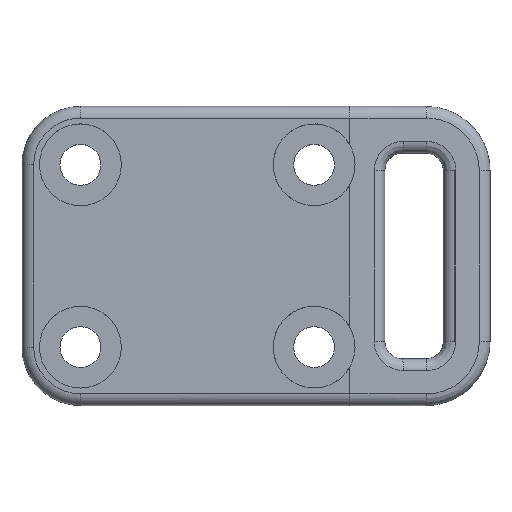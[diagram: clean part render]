
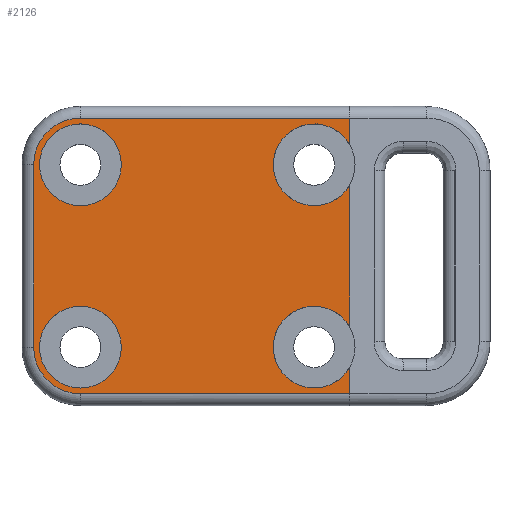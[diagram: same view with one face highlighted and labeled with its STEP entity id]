
A CAD part, top view. The second image highlights one B-rep face of the part: STEP entity #2126.
In plain terms, the highlighted planar face has unit normal (0, 0, 1).
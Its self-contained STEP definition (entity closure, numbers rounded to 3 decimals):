
#36 = DIRECTION ( 'NONE',  ( 0., 0., 1. ) ) ;
#52 = CARTESIAN_POINT ( 'NONE',  ( 3.299, -61.108, 4. ) ) ;
#53 = CARTESIAN_POINT ( 'NONE',  ( 26.348, -66.827, 4. ) ) ;
#108 = DIRECTION ( 'NONE',  ( 0., 0., 1. ) ) ;
#148 = CARTESIAN_POINT ( 'NONE',  ( 26.348, -84.712, 4. ) ) ;
#160 = CARTESIAN_POINT ( 'NONE',  ( 26.348, -91.108, 4. ) ) ;
#163 = VERTEX_POINT ( 'NONE', #704 ) ;
#192 = CARTESIAN_POINT ( 'NONE',  ( 3.299, -65.108, 4. ) ) ;
#203 = EDGE_CURVE ( 'NONE', #849, #163, #530, .T. ) ;
#228 = DIRECTION ( 'NONE',  ( 1., 0., 0. ) ) ;
#250 = EDGE_CURVE ( 'NONE', #882, #2033, #410, .T. ) ;
#255 = CARTESIAN_POINT ( 'NONE',  ( 6.799, -65.108, 4. ) ) ;
#266 = FACE_OUTER_BOUND ( 'NONE', #768, .T. ) ;
#275 = VERTEX_POINT ( 'NONE', #1669 ) ;
#279 = DIRECTION ( 'NONE',  ( 0., 0., 1. ) ) ;
#285 = EDGE_CURVE ( 'NONE', #424, #1435, #1834, .T. ) ;
#303 = CARTESIAN_POINT ( 'NONE',  ( 3.299, -65.108, 4. ) ) ;
#347 = AXIS2_PLACEMENT_3D ( 'NONE', #414, #780, #228 ) ;
#360 = DIRECTION ( 'NONE',  ( 1., 0., 0. ) ) ;
#366 = EDGE_LOOP ( 'NONE', ( #1002, #1067 ) ) ;
#397 = DIRECTION ( 'NONE',  ( 0., 1., 0. ) ) ;
#410 = CIRCLE ( 'NONE', #1590, 3.5 ) ;
#414 = CARTESIAN_POINT ( 'NONE',  ( 23.299, -80.712, 4. ) ) ;
#422 = EDGE_CURVE ( 'NONE', #2122, #849, #1810, .T. ) ;
#424 = VERTEX_POINT ( 'NONE', #2243 ) ;
#454 = ORIENTED_EDGE ( 'NONE', *, *, #285, .T. ) ;
#493 = CARTESIAN_POINT ( 'NONE',  ( -0.701, -80.712, 4. ) ) ;
#519 = CIRCLE ( 'NONE', #1982, 3.5 ) ;
#524 = LINE ( 'NONE', #493, #1609 ) ;
#530 = CIRCLE ( 'NONE', #1842, 4. ) ;
#546 = ORIENTED_EDGE ( 'NONE', *, *, #2303, .F. ) ;
#579 = CARTESIAN_POINT ( 'NONE',  ( 23.299, -80.712, 4. ) ) ;
#622 = AXIS2_PLACEMENT_3D ( 'NONE', #192, #2017, #1683 ) ;
#631 = CARTESIAN_POINT ( 'NONE',  ( 0., 0., 4. ) ) ;
#662 = ORIENTED_EDGE ( 'NONE', *, *, #203, .T. ) ;
#666 = PLANE ( 'NONE',  #1411 ) ;
#677 = EDGE_CURVE ( 'NONE', #799, #275, #2281, .T. ) ;
#704 = CARTESIAN_POINT ( 'NONE',  ( -0.701, -65.108, 4. ) ) ;
#725 = VECTOR ( 'NONE', #1721, 1000. ) ;
#726 = CIRCLE ( 'NONE', #1253, 3.5 ) ;
#768 = EDGE_LOOP ( 'NONE', ( #2323, #911, #1563, #662, #827, #1873, #454, #2073, #1437, #2318, #975, #1617 ) ) ;
#772 = CARTESIAN_POINT ( 'NONE',  ( 26.348, -91.108, 4. ) ) ;
#780 = DIRECTION ( 'NONE',  ( 0., 0., 1. ) ) ;
#799 = VERTEX_POINT ( 'NONE', #1962 ) ;
#827 = ORIENTED_EDGE ( 'NONE', *, *, #1780, .T. ) ;
#849 = VERTEX_POINT ( 'NONE', #2160 ) ;
#855 = VERTEX_POINT ( 'NONE', #1448 ) ;
#857 = CARTESIAN_POINT ( 'NONE',  ( 23.299, -65.108, 4. ) ) ;
#868 = CIRCLE ( 'NONE', #347, 3.5 ) ;
#882 = VERTEX_POINT ( 'NONE', #1622 ) ;
#911 = ORIENTED_EDGE ( 'NONE', *, *, #1625, .T. ) ;
#925 = DIRECTION ( 'NONE',  ( 0., 0., 1. ) ) ;
#934 = VECTOR ( 'NONE', #1182, 1000. ) ;
#952 = EDGE_CURVE ( 'NONE', #1435, #855, #1248, .T. ) ;
#972 = CARTESIAN_POINT ( 'NONE',  ( 26.348, -91.108, 4. ) ) ;
#975 = ORIENTED_EDGE ( 'NONE', *, *, #1187, .T. ) ;
#1002 = ORIENTED_EDGE ( 'NONE', *, *, #2382, .F. ) ;
#1003 = EDGE_CURVE ( 'NONE', #2061, #2201, #1663, .T. ) ;
#1023 = LINE ( 'NONE', #772, #725 ) ;
#1032 = CARTESIAN_POINT ( 'NONE',  ( 19.799, -65.108, 4. ) ) ;
#1046 = DIRECTION ( 'NONE',  ( 1., 0., 0. ) ) ;
#1064 = DIRECTION ( 'NONE',  ( 0., 0., 1. ) ) ;
#1067 = ORIENTED_EDGE ( 'NONE', *, *, #1003, .F. ) ;
#1092 = ORIENTED_EDGE ( 'NONE', *, *, #677, .F. ) ;
#1149 = AXIS2_PLACEMENT_3D ( 'NONE', #1417, #279, #2124 ) ;
#1182 = DIRECTION ( 'NONE',  ( -1., 0., 0. ) ) ;
#1187 = EDGE_CURVE ( 'NONE', #882, #1684, #1023, .T. ) ;
#1194 = CIRCLE ( 'NONE', #1483, 3.5 ) ;
#1228 = CARTESIAN_POINT ( 'NONE',  ( 3.299, -80.712, 4. ) ) ;
#1248 = LINE ( 'NONE', #160, #1886 ) ;
#1253 = AXIS2_PLACEMENT_3D ( 'NONE', #1507, #36, #2252 ) ;
#1297 = CARTESIAN_POINT ( 'NONE',  ( 19.799, -80.712, 4. ) ) ;
#1312 = EDGE_CURVE ( 'NONE', #1313, #424, #2161, .T. ) ;
#1313 = VERTEX_POINT ( 'NONE', #1909 ) ;
#1316 = AXIS2_PLACEMENT_3D ( 'NONE', #1228, #1585, #1594 ) ;
#1341 = CARTESIAN_POINT ( 'NONE',  ( 3.299, -80.712, 4. ) ) ;
#1345 = EDGE_LOOP ( 'NONE', ( #546, #1092 ) ) ;
#1347 = EDGE_CURVE ( 'NONE', #1413, #2230, #1194, .T. ) ;
#1384 = CARTESIAN_POINT ( 'NONE',  ( 26.348, -61.108, 4. ) ) ;
#1411 = AXIS2_PLACEMENT_3D ( 'NONE', #631, #108, #1749 ) ;
#1413 = VERTEX_POINT ( 'NONE', #1635 ) ;
#1417 = CARTESIAN_POINT ( 'NONE',  ( 3.299, -80.712, 4. ) ) ;
#1435 = VERTEX_POINT ( 'NONE', #148 ) ;
#1437 = ORIENTED_EDGE ( 'NONE', *, *, #2057, .F. ) ;
#1448 = CARTESIAN_POINT ( 'NONE',  ( 26.348, -82.43, 4. ) ) ;
#1483 = AXIS2_PLACEMENT_3D ( 'NONE', #857, #2145, #1046 ) ;
#1507 = CARTESIAN_POINT ( 'NONE',  ( 23.299, -65.108, 4. ) ) ;
#1555 = DIRECTION ( 'NONE',  ( 0., 0., 1. ) ) ;
#1563 = ORIENTED_EDGE ( 'NONE', *, *, #422, .T. ) ;
#1568 = EDGE_CURVE ( 'NONE', #2230, #1684, #726, .T. ) ;
#1585 = DIRECTION ( 'NONE',  ( 0., 0., 1. ) ) ;
#1590 = AXIS2_PLACEMENT_3D ( 'NONE', #579, #2239, #2051 ) ;
#1594 = DIRECTION ( 'NONE',  ( 1., 0., 0. ) ) ;
#1609 = VECTOR ( 'NONE', #2334, 1000. ) ;
#1617 = ORIENTED_EDGE ( 'NONE', *, *, #1568, .F. ) ;
#1622 = CARTESIAN_POINT ( 'NONE',  ( 26.348, -78.994, 4. ) ) ;
#1625 = EDGE_CURVE ( 'NONE', #1413, #2122, #1830, .T. ) ;
#1635 = CARTESIAN_POINT ( 'NONE',  ( 26.348, -63.39, 4. ) ) ;
#1663 = CIRCLE ( 'NONE', #622, 3.5 ) ;
#1669 = CARTESIAN_POINT ( 'NONE',  ( 6.799, -80.712, 4. ) ) ;
#1683 = DIRECTION ( 'NONE',  ( 1., 0., 0. ) ) ;
#1684 = VERTEX_POINT ( 'NONE', #53 ) ;
#1690 = CARTESIAN_POINT ( 'NONE',  ( -0.201, -65.108, 4. ) ) ;
#1721 = DIRECTION ( 'NONE',  ( 0., 1., 0. ) ) ;
#1749 = DIRECTION ( 'NONE',  ( 1., 0., 0. ) ) ;
#1780 = EDGE_CURVE ( 'NONE', #163, #1313, #524, .T. ) ;
#1810 = LINE ( 'NONE', #52, #934 ) ;
#1829 = AXIS2_PLACEMENT_3D ( 'NONE', #1341, #1555, #2092 ) ;
#1830 = LINE ( 'NONE', #972, #1918 ) ;
#1834 = LINE ( 'NONE', #2206, #2254 ) ;
#1842 = AXIS2_PLACEMENT_3D ( 'NONE', #2041, #925, #1852 ) ;
#1852 = DIRECTION ( 'NONE',  ( 1., 0., 0. ) ) ;
#1873 = ORIENTED_EDGE ( 'NONE', *, *, #1312, .T. ) ;
#1886 = VECTOR ( 'NONE', #2341, 1000. ) ;
#1909 = CARTESIAN_POINT ( 'NONE',  ( -0.701, -80.712, 4. ) ) ;
#1915 = CIRCLE ( 'NONE', #1829, 3.5 ) ;
#1918 = VECTOR ( 'NONE', #397, 1000. ) ;
#1962 = CARTESIAN_POINT ( 'NONE',  ( -0.201, -80.712, 4. ) ) ;
#1982 = AXIS2_PLACEMENT_3D ( 'NONE', #303, #1064, #2175 ) ;
#2017 = DIRECTION ( 'NONE',  ( 0., 0., 1. ) ) ;
#2033 = VERTEX_POINT ( 'NONE', #1297 ) ;
#2041 = CARTESIAN_POINT ( 'NONE',  ( 3.299, -65.108, 4. ) ) ;
#2051 = DIRECTION ( 'NONE',  ( 1., 0., 0. ) ) ;
#2057 = EDGE_CURVE ( 'NONE', #2033, #855, #868, .T. ) ;
#2061 = VERTEX_POINT ( 'NONE', #1690 ) ;
#2073 = ORIENTED_EDGE ( 'NONE', *, *, #952, .T. ) ;
#2092 = DIRECTION ( 'NONE',  ( 1., 0., 0. ) ) ;
#2122 = VERTEX_POINT ( 'NONE', #1384 ) ;
#2124 = DIRECTION ( 'NONE',  ( 1., 0., 0. ) ) ;
#2126 = ADVANCED_FACE ( 'NONE', ( #266, #2365, #2163 ), #666, .T. ) ;
#2145 = DIRECTION ( 'NONE',  ( 0., 0., 1. ) ) ;
#2160 = CARTESIAN_POINT ( 'NONE',  ( 3.299, -61.108, 4. ) ) ;
#2161 = CIRCLE ( 'NONE', #1149, 4. ) ;
#2163 = FACE_BOUND ( 'NONE', #366, .T. ) ;
#2175 = DIRECTION ( 'NONE',  ( 1., 0., 0. ) ) ;
#2201 = VERTEX_POINT ( 'NONE', #255 ) ;
#2206 = CARTESIAN_POINT ( 'NONE',  ( 26.348, -84.712, 4. ) ) ;
#2230 = VERTEX_POINT ( 'NONE', #1032 ) ;
#2239 = DIRECTION ( 'NONE',  ( 0., 0., 1. ) ) ;
#2243 = CARTESIAN_POINT ( 'NONE',  ( 3.299, -84.712, 4. ) ) ;
#2252 = DIRECTION ( 'NONE',  ( 1., 0., 0. ) ) ;
#2254 = VECTOR ( 'NONE', #360, 1000. ) ;
#2281 = CIRCLE ( 'NONE', #1316, 3.5 ) ;
#2303 = EDGE_CURVE ( 'NONE', #275, #799, #1915, .T. ) ;
#2318 = ORIENTED_EDGE ( 'NONE', *, *, #250, .F. ) ;
#2323 = ORIENTED_EDGE ( 'NONE', *, *, #1347, .F. ) ;
#2334 = DIRECTION ( 'NONE',  ( 0., -1., 0. ) ) ;
#2341 = DIRECTION ( 'NONE',  ( 0., 1., 0. ) ) ;
#2365 = FACE_BOUND ( 'NONE', #1345, .T. ) ;
#2382 = EDGE_CURVE ( 'NONE', #2201, #2061, #519, .T. ) ;
